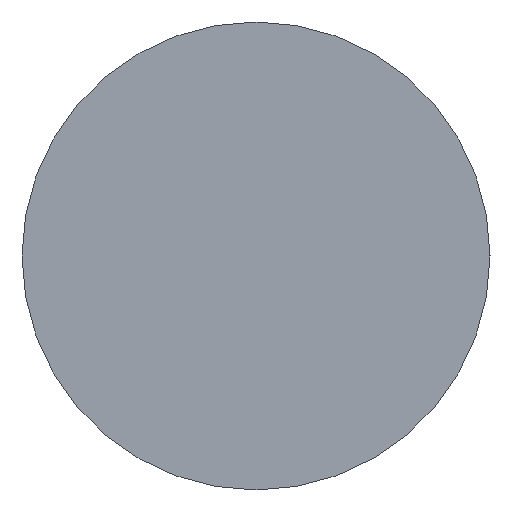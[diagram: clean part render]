
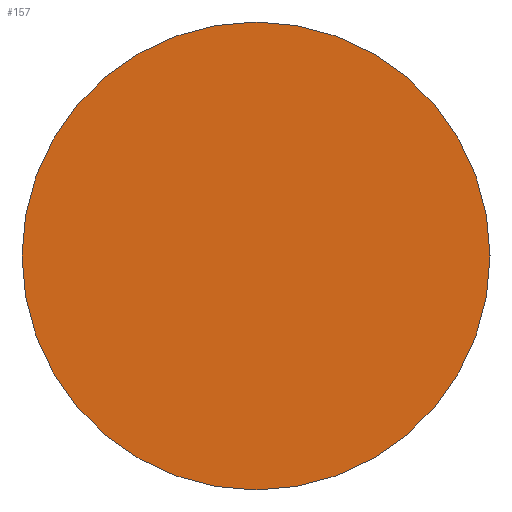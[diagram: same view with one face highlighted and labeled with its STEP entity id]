
A CAD part, left-side view. The second image highlights one B-rep face of the part: STEP entity #157.
In plain terms, the highlighted planar face has unit normal (-1, 0, 0).
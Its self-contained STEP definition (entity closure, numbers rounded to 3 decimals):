
#129 = VERTEX_POINT('',#130);
#130 = CARTESIAN_POINT('',(-528.,0.,10.4));
#136 = EDGE_CURVE('',#129,#129,#137,.T.);
#137 = CIRCLE('',#138,10.4);
#138 = AXIS2_PLACEMENT_3D('',#139,#140,#141);
#139 = CARTESIAN_POINT('',(-528.,0.,0.));
#140 = DIRECTION('',(1.,0.,0.));
#141 = DIRECTION('',(-0.,0.,1.));
#157 = ADVANCED_FACE('',(#158),#161,.F.);
#158 = FACE_BOUND('',#159,.T.);
#159 = EDGE_LOOP('',(#160));
#160 = ORIENTED_EDGE('',*,*,#136,.F.);
#161 = PLANE('',#162);
#162 = AXIS2_PLACEMENT_3D('',#163,#164,#165);
#163 = CARTESIAN_POINT('',(-528.,0.,0.));
#164 = DIRECTION('',(1.,0.,0.));
#165 = DIRECTION('',(-0.,0.,1.));
